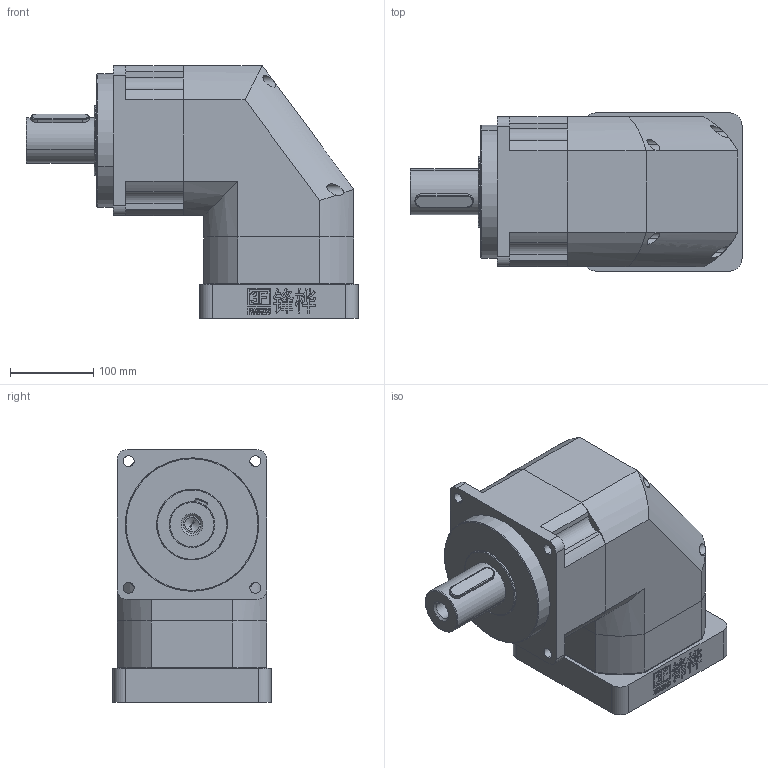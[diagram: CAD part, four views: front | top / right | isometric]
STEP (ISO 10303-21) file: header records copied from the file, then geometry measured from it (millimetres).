
FILE_DESCRIPTION (( 'STEP AP214' ), '1' );
FILE_NAME ('PAR180-L1-S2-P2 38-180-215-M12.STEP', '2019-10-30T09:19:01', ( '微软用户' ), ( '微软中国' ), 'SwSTEP 2.0', 'SolidWorks 2014', '' );
FILE_SCHEMA (( 'AUTOMOTIVE_DESIGN' ));
Length unit declared in the file: millimetre
Products named in the file (2): PAR180-L1-S2-P2 38-180-215-M12
Bounding box: 398.5 x 190 x 303.5 mm (x, y, z)
Volume: 10953333.7 mm3; surface area: 631718.3 mm2
Topology: 5 solids, 5 shells, 843 faces, 2370 edges, 1575 vertices
Faces by surface type: plane 645, cylinder 126, bspline 68, cone 4
Entity records: 35639 total; most frequent: CARTESIAN_POINT 6260, ORIENTED_EDGE 4734, DIRECTION 4013, EDGE_CURVE 2367, LINE 1959, VECTOR 1959, VERTEX_POINT 1575, AXIS2_PLACEMENT_3D 1027
